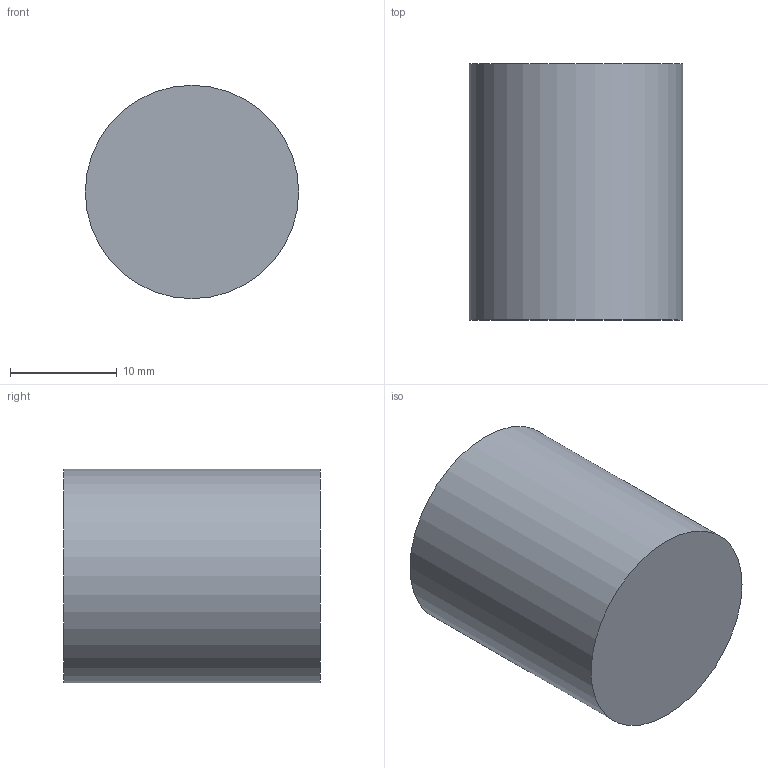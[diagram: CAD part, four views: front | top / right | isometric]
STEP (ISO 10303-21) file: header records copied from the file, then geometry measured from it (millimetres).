
FILE_DESCRIPTION(('Open CASCADE Model'),'2;1');
FILE_NAME('Open CASCADE Shape Model','2026-10-25T05:18:02',('Author'),( 'Open CASCADE'),'Open CASCADE STEP processor 7.9','Open CASCADE 7.9' ,'Unknown');
FILE_SCHEMA(('AUTOMOTIVE_DESIGN { 1 0 10303 214 1 1 1 1 }'));
Length unit declared in the file: millimetre
Products named in the file (1): Open CASCADE STEP translator 7.9 93
Bounding box: 20 x 24 x 20 mm (x, y, z)
Volume: 7539.8 mm3; surface area: 2136.3 mm2
Topology: 1 solids, 1 shells, 3 faces, 3 edges, 2 vertices
Faces by surface type: plane 2, cylinder 1
Full cylindrical faces by diameter (mm): 20 x1
Entity records: 108 total; most frequent: DIRECTION 19, CARTESIAN_POINT 15, AXIS2_PLACEMENT_3D 6, ORIENTED_EDGE 6, PCURVE 6, DEFINITIONAL_REPRESENTATION 6, LINE 5, VECTOR 5
